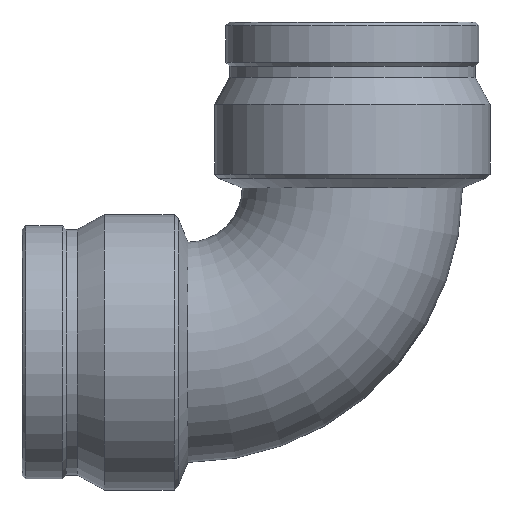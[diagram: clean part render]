
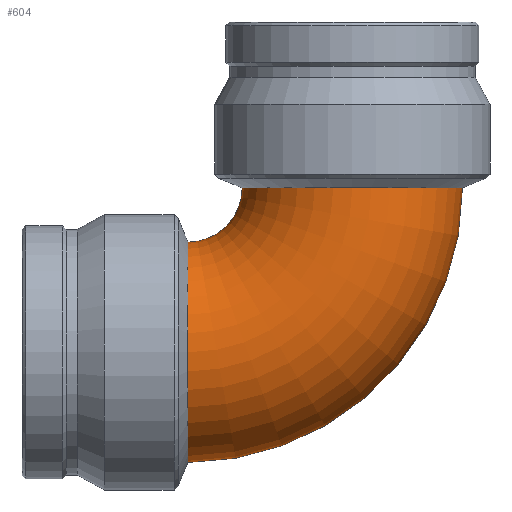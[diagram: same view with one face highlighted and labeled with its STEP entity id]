
A CAD part, front view. The second image highlights one B-rep face of the part: STEP entity #604.
In plain terms, the highlighted toroidal (fillet/blend) face has major radius 85.35 mm and minor radius 57.2 mm.
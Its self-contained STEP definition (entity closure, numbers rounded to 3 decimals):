
#136=FACE_OUTER_BOUND('',#180,.T.);
#180=EDGE_LOOP('',(#431,#432,#433,#434,#435,#436));
#238=CIRCLE('',#677,57.2);
#239=CIRCLE('',#678,57.2);
#240=CIRCLE('',#679,28.15);
#241=CIRCLE('',#680,57.2);
#242=CIRCLE('',#681,57.2);
#287=VERTEX_POINT('',#996);
#288=VERTEX_POINT('',#997);
#289=VERTEX_POINT('',#1000);
#290=VERTEX_POINT('',#1002);
#342=EDGE_CURVE('',#287,#288,#238,.T.);
#343=EDGE_CURVE('',#288,#287,#239,.T.);
#344=EDGE_CURVE('',#288,#289,#240,.T.);
#345=EDGE_CURVE('',#290,#289,#241,.T.);
#346=EDGE_CURVE('',#289,#290,#242,.T.);
#431=ORIENTED_EDGE('',*,*,#342,.F.);
#432=ORIENTED_EDGE('',*,*,#343,.F.);
#433=ORIENTED_EDGE('',*,*,#344,.T.);
#434=ORIENTED_EDGE('',*,*,#345,.F.);
#435=ORIENTED_EDGE('',*,*,#346,.F.);
#436=ORIENTED_EDGE('',*,*,#344,.F.);
#602=TOROIDAL_SURFACE('',#676,85.35,57.2);
#604=ADVANCED_FACE('',(#136),#602,.T.);
#676=AXIS2_PLACEMENT_3D('',#995,#778,#779);
#677=AXIS2_PLACEMENT_3D('',#998,#780,#781);
#678=AXIS2_PLACEMENT_3D('',#999,#782,#783);
#679=AXIS2_PLACEMENT_3D('',#1001,#784,#785);
#680=AXIS2_PLACEMENT_3D('',#1003,#786,#787);
#681=AXIS2_PLACEMENT_3D('',#1004,#788,#789);
#778=DIRECTION('center_axis',(0.,-1.,0.));
#779=DIRECTION('ref_axis',(0.,0.,-1.));
#780=DIRECTION('center_axis',(0.,0.,
1.));
#781=DIRECTION('ref_axis',(0.,-1.,0.));
#782=DIRECTION('center_axis',(0.,0.,
1.));
#783=DIRECTION('ref_axis',(0.,-1.,0.));
#784=DIRECTION('center_axis',(0.,1.,0.));
#785=DIRECTION('ref_axis',(0.,0.,-1.));
#786=DIRECTION('center_axis',(-1.,0.,0.));
#787=DIRECTION('ref_axis',(0.,-1.,0.));
#788=DIRECTION('center_axis',(-1.,0.,0.));
#789=DIRECTION('ref_axis',(0.,-1.,0.));
#995=CARTESIAN_POINT('Origin',(-85.35,0.,
85.35));
#996=CARTESIAN_POINT('',(0.,57.2,85.35));
#997=CARTESIAN_POINT('',(-57.2,0.,85.35));
#998=CARTESIAN_POINT('Origin',(0.,0.,
85.35));
#999=CARTESIAN_POINT('Origin',(0.,0.,
85.35));
#1000=CARTESIAN_POINT('',(-85.35,0.,57.2));
#1001=CARTESIAN_POINT('Origin',(-85.35,0.,
85.35));
#1002=CARTESIAN_POINT('',(-85.35,57.2,0.));
#1003=CARTESIAN_POINT('Origin',(-85.35,0.,
0.));
#1004=CARTESIAN_POINT('Origin',(-85.35,0.,
0.));
